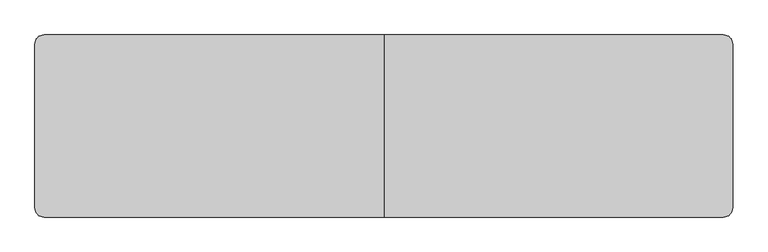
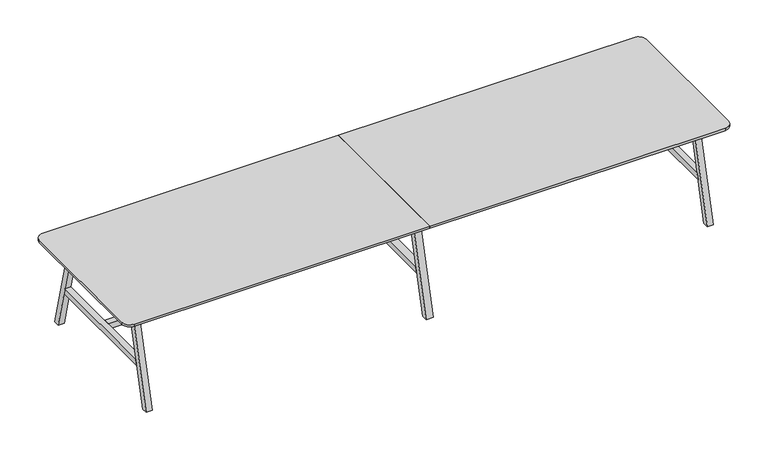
"""IFC4 building model written with IfcOpenShell, lengths in millimetres: furniture geometry, BDG_BossDesign_Tbls_AgentTables6Legs : AGE-DT-6L-4600-1200-3D."""

import ifcopenshell
import ifcopenshell.guid

model = None  # the IFC model being written
_history = None  # IfcOwnerHistory: only IFC2X3 demands one
_inside = {}  # id of a spatial element -> (the spatial element, [elements in it])
_under = {}  # id of a project, library or spatial element -> (it, [spatial elements below it])
_declared = {}  # id of a project -> (the project, [libraries it declares])
_typed = {}  # id of a type object -> (the type object, [elements of that type])
_made_of = {}  # id of a material, layer set ... -> (it, [elements and type objects made of it])


def new_model(schema):
    """Start an empty IFC model of exactly this schema.

    Asked for "IFC4X3", IfcOpenShell would pick the latest addendum, in which some entities
    have other attributes; the version numbers below select the first issue.
    IFC2X3 requires an IfcOwnerHistory on every rooted entity: one is made here for all.
    """
    global model, _history
    if schema == "IFC4X3":
        model = ifcopenshell.file(schema_version=(4, 3, 0, 0))
    else:
        model = ifcopenshell.file(schema=schema)
    _inside.clear()
    _under.clear()
    _declared.clear()
    _typed.clear()
    _made_of.clear()
    _history = None
    if model.schema == "IFC2X3":
        org = make("IfcOrganization", Name="unknown")
        user = make(
            "IfcPersonAndOrganization",
            ThePerson=make("IfcPerson", FamilyName="unknown"),
            TheOrganization=org,
        )
        app = make(
            "IfcApplication",
            ApplicationDeveloper=org,
            Version="unknown",
            ApplicationFullName="unknown",
            ApplicationIdentifier="unknown",
        )
        _history = make(
            "IfcOwnerHistory",
            OwningUser=user,
            OwningApplication=app,
            ChangeAction="ADDED",
            CreationDate=0,
        )
    return model


def make(cls, **values):
    """One entity of the class cls with the attributes given. An attribute that is None is left unset."""
    return model.create_entity(
        cls, **{name: value for name, value in values.items() if value is not None}
    )


def rooted(cls, **values):
    """An entity with a GlobalId (a new one), such as an element, a storey or a relation."""
    return make(cls, GlobalId=ifcopenshell.guid.new(), OwnerHistory=_history, **values)


def si_unit(unit_type, name, prefix=None):
    """IfcSIUnit, for example si_unit("LENGTHUNIT", "METRE", prefix="MILLI")."""
    return make("IfcSIUnit", UnitType=unit_type, Prefix=prefix, Name=name)


def assignment(units):
    """IfcUnitAssignment: the units of a project."""
    return None if units is None else make("IfcUnitAssignment", Units=units)


def point(xyz):
    """IfcCartesianPoint."""
    return None if xyz is None else make("IfcCartesianPoint", Coordinates=xyz)


def direction(xyz):
    """IfcDirection."""
    return None if xyz is None else make("IfcDirection", DirectionRatios=xyz)


def frame(location, z_axis=None, x_axis=None):
    """IfcAxis2Placement3D, a coordinate frame: its origin and axes. An axis left out is left unset."""
    return make(
        "IfcAxis2Placement3D",
        Location=point(location),
        Axis=direction(z_axis),
        RefDirection=direction(x_axis),
    )


def frame_2d(location, x_axis=None):
    """IfcAxis2Placement2D, a coordinate frame in the plane: its origin and x axis."""
    return make(
        "IfcAxis2Placement2D", Location=point(location), RefDirection=direction(x_axis)
    )


def origin():
    """The frame at (0, 0, 0) with its axes left unset."""
    return frame((0.0, 0.0, 0.0))


def place(relative_to, where):
    """IfcLocalPlacement: puts the frame where relative to a parent placement (None: the world)."""
    return make(
        "IfcLocalPlacement", PlacementRelTo=relative_to, RelativePlacement=where
    )


def context(
    kind, dimensions, precision=None, world=None, true_north=None, identifier=None
):
    """IfcGeometricRepresentationContext, for example the 3D "Model" context."""
    return make(
        "IfcGeometricRepresentationContext",
        ContextIdentifier=identifier,
        ContextType=kind,
        CoordinateSpaceDimension=dimensions,
        Precision=precision,
        WorldCoordinateSystem=world,
        TrueNorth=true_north,
    )


def project(units=None, contexts=None):
    """IfcProject with its units and contexts."""
    return rooted(
        "IfcProject",
        Name="project",
        RepresentationContexts=contexts,
        UnitsInContext=assignment(units),
    )


def spatial(cls, under=None, at=None, **own):
    """A site, building, storey or space (cls), placed at a placement, below another one or the project."""
    s = rooted(cls, ObjectPlacement=at, **own)
    if under is not None:
        _under.setdefault(under.id(), (under, []))[1].append(s)
    return s


def polyline(points):
    """IfcPolyline through the points."""
    return make("IfcPolyline", Points=[point(p) for p in points])


def circle_curve(where, radius):
    """IfcCircle in the frame where."""
    return make("IfcCircle", Position=where, Radius=radius)


def trimmed(basis, trim1, trim2, sense, master):
    """IfcTrimmedCurve: the piece of a basis curve between two trims."""
    return make(
        "IfcTrimmedCurve",
        BasisCurve=basis,
        Trim1=trim1,
        Trim2=trim2,
        SenseAgreement=sense,
        MasterRepresentation=master,
    )


def segment(curve, same_sense, transition):
    """IfcCompositeCurveSegment."""
    return make(
        "IfcCompositeCurveSegment",
        Transition=transition,
        SameSense=same_sense,
        ParentCurve=curve,
    )


def composite_curve(segments, self_intersect=None):
    """IfcCompositeCurve: segments joined end to end."""
    return make("IfcCompositeCurve", Segments=segments, SelfIntersect=self_intersect)


def outline(outer, holes=None, kind="AREA"):
    """IfcArbitraryClosedProfileDef: a profile drawn as a closed curve; with holes, ...WithVoids."""
    if holes is None:
        return make("IfcArbitraryClosedProfileDef", ProfileType=kind, OuterCurve=outer)
    return make(
        "IfcArbitraryProfileDefWithVoids",
        ProfileType=kind,
        OuterCurve=outer,
        InnerCurves=holes,
    )


def extrude(swept, where, along, depth):
    """IfcExtrudedAreaSolid: the profile swept, set in the frame where, extruded along a direction by depth."""
    return make(
        "IfcExtrudedAreaSolid",
        SweptArea=swept,
        Position=where,
        ExtrudedDirection=direction(along),
        Depth=depth,
    )


def shape(context_of_items, identifier, shape_type, items):
    """IfcShapeRepresentation: the items that make up one representation, for example the "Body"."""
    return make(
        "IfcShapeRepresentation",
        ContextOfItems=context_of_items,
        RepresentationIdentifier=identifier,
        RepresentationType=shape_type,
        Items=items,
    )


def source(mapping_origin, context_of_items, identifier, shape_type, items):
    """IfcRepresentationMap: a shape defined once, which mapped items show again and again."""
    return make(
        "IfcRepresentationMap",
        MappingOrigin=mapping_origin,
        MappedRepresentation=shape(context_of_items, identifier, shape_type, items),
    )


def transform(
    local_origin,
    x_axis=None,
    y_axis=None,
    z_axis=None,
    scale=None,
    scale2=None,
    scale3=None,
    uniform=True,
):
    """IfcCartesianTransformationOperator3D, or its non-uniform kind. x_axis, y_axis, z_axis: its Axis1, 2, 3."""
    if uniform:
        return make(
            "IfcCartesianTransformationOperator3D",
            Axis1=direction(x_axis),
            Axis2=direction(y_axis),
            LocalOrigin=point(local_origin),
            Scale=scale,
            Axis3=direction(z_axis),
        )
    return make(
        "IfcCartesianTransformationOperator3DnonUniform",
        Axis1=direction(x_axis),
        Axis2=direction(y_axis),
        LocalOrigin=point(local_origin),
        Scale=scale,
        Axis3=direction(z_axis),
        Scale2=scale2,
        Scale3=scale3,
    )


def mapped(mapping_source, mapping_target):
    """IfcMappedItem: shows the shape of a source again, moved by a transform."""
    return make(
        "IfcMappedItem", MappingSource=mapping_source, MappingTarget=mapping_target
    )


def made_of(thing, what):
    """Note that an element or type object is made of a material, layer set ...; save() writes the relation."""
    if what is not None:
        _made_of.setdefault(what.id(), (what, []))[1].append(thing)
    return thing


def element(
    cls,
    number,
    at=None,
    inside=None,
    cuts=None,
    type_object=None,
    material=None,
    context=None,
    identifier="Body",
    shape_type=None,
    held_by="IfcProductDefinitionShape",
    body=None,
    shapes=None,
    **own,
):
    """One element of the class cls, such as IfcWall. Its Tag is "e" and its number.

    at: its placement. inside: the storey or other place that contains it. cuts: it is an
    opening in that element (IfcRelVoidsElement). A single representation is given by context,
    identifier, shape_type and body (its items); several are given by shapes. held_by: the class
    of the entity that holds the representations. save() writes the other relations.
    """
    e = rooted(cls, Tag="e%d" % number, ObjectPlacement=at, **own)
    if body is not None:
        shapes = [shape(context, identifier, shape_type, body)]
    if shapes is not None:
        e.Representation = make(held_by, Representations=shapes)
    if inside is not None:
        _inside.setdefault(inside.id(), (inside, []))[1].append(e)
    if cuts is not None:
        rooted(
            "IfcRelVoidsElement", RelatingBuildingElement=cuts, RelatedOpeningElement=e
        )
    if type_object is not None:
        _typed.setdefault(type_object.id(), (type_object, []))[1].append(e)
    return made_of(e, material)


def aggregate(whole, parts):
    """IfcRelAggregates: a whole, such as a stair, and the parts it consists of."""
    return rooted("IfcRelAggregates", RelatingObject=whole, RelatedObjects=parts)


def save(model, path):
    """Write the relations noted so far, then the file.

    IfcRelAggregates (storeys below a building ...), IfcRelContainedInSpatialStructure (elements
    in a storey), IfcRelDefinesByType, IfcRelAssociatesMaterial and IfcRelDeclares: one each for
    every whole, place, type object, material and project.
    """
    for whole, parts in _under.values():
        aggregate(whole, parts)
    for where, things in _inside.values():
        rooted(
            "IfcRelContainedInSpatialStructure",
            RelatedElements=things,
            RelatingStructure=where,
        )
    for kind, things in _typed.values():
        rooted("IfcRelDefinesByType", RelatedObjects=things, RelatingType=kind)
    for what, things in _made_of.values():
        rooted("IfcRelAssociatesMaterial", RelatedObjects=things, RelatingMaterial=what)
    for by, libraries in _declared.values():
        rooted("IfcRelDeclares", RelatingContext=by, RelatedDefinitions=libraries)
    model.write(path)


def furniture_21c54065(model_context):
    return source(origin(), model_context, "Body", "SweptSolid", [
        extrude(outline(polyline([(600.0, 0.0), (554.9999949, 0.0), (385.5, 660.0), (430.5000051, 660.0), (600.0, 0.0)])), frame((-27.5, 0.0, 0.0), z_axis=(1.0, 0.0, 0.0), x_axis=(0.0, 1.0, 0.0)), (0.0, 0.0, 1.0), 55.0),
        extrude(outline(polyline([(-600.0, 0.0), (-430.5000051, 660.0), (-385.5, 660.0), (-554.9999949, 0.0), (-600.0, 0.0)])), frame((-27.5, 0.0, 0.0), z_axis=(1.0, 0.0, 0.0), x_axis=(0.0, 1.0, 0.0)), (0.0, 0.0, 1.0), 55.0),
        extrude(outline(polyline([(477.9545427, 300.0), (-477.9545427, 300.0), (-466.3977249, 345.0), (466.3977249, 345.0), (477.9545427, 300.0)])), frame((-27.5, 0.0, 0.0), z_axis=(1.0, 0.0, 0.0), x_axis=(0.0, 1.0, 0.0)), (0.0, 0.0, 1.0), 55.0),
        extrude(outline(composite_curve([segment(polyline([(0.0, 600.0), (0.0, -600.0), (-2240.0, -600.0)]), True, "CONTINUOUS"), segment(trimmed(circle_curve(frame_2d((-2240.0, -540.0)), 60.0), [point((-2240.0, -600.0))], [point((-2300.0, -540.0))], False, "CARTESIAN"), True, "CONTINUOUS"), segment(polyline([(-2300.0, -540.0), (-2300.0, 540.0)]), True, "CONTINUOUS"), segment(trimmed(circle_curve(frame_2d((-2240.0, 540.0)), 60.0), [point((-2300.0, 540.0))], [point((-2240.0, 600.0))], False, "CARTESIAN"), True, "CONTINUOUS"), segment(polyline([(-2240.0, 600.0), (0.0, 600.0)]), True, "CONTINUOUS")], self_intersect=False)), frame((0.0, 0.0, 722.0), z_axis=(0.0, 0.0, 1.0), x_axis=(1.0, 0.0, 0.0)), (0.0, 0.0, 1.0), 18.0),
        extrude(outline(polyline([(-466.3977249, 345.0), (466.3977249, 345.0), (477.9545427, 300.0), (-477.9545427, 300.0), (-466.3977249, 345.0)])), frame((2105.0, 0.0, 0.0), z_axis=(1.0, 0.0, 0.0), x_axis=(0.0, 1.0, 0.0)), (0.0, 0.0, 1.0), 45.0),
        extrude(outline(polyline([(600.0, 0.0), (554.9999949, 0.0), (385.5, 660.0), (430.5000051, 660.0), (600.0, 0.0)])), frame((-2150.0, 0.0, 0.0), z_axis=(1.0, 0.0, 0.0), x_axis=(0.0, 1.0, 0.0)), (0.0, 0.0, 1.0), 45.0),
        extrude(outline(polyline([(-600.0, 0.0), (-430.5000051, 660.0), (-385.5, 660.0), (-554.9999949, 0.0), (-600.0, 0.0)])), frame((-2150.0, 0.0, 0.0), z_axis=(1.0, 0.0, 0.0), x_axis=(0.0, 1.0, 0.0)), (0.0, 0.0, 1.0), 45.0),
        extrude(outline(polyline([(-466.3977249, 345.0), (466.3977249, 345.0), (477.9545427, 300.0), (-477.9545427, 300.0), (-466.3977249, 345.0)])), frame((-2150.0, 0.0, 0.0), z_axis=(1.0, 0.0, 0.0), x_axis=(0.0, 1.0, 0.0)), (0.0, 0.0, 1.0), 45.0),
        extrude(outline(polyline([(-426.6006165, 634.973938), (-404.2770691, 722.0), (-379.5, 722.0), (-401.8235474, 634.973938), (-426.6006165, 634.973938)])), frame((-2105.0, 0.0, 0.0), z_axis=(1.0, 0.0, 0.0), x_axis=(0.0, 1.0, 0.0)), (0.0, 0.0, 1.0), 4210.0),
        extrude(outline(polyline([(426.6006165, 634.973938), (401.8235474, 634.973938), (379.5, 722.0), (404.2770691, 722.0), (426.6006165, 634.973938)])), frame((-2105.0, 0.0, 0.0), z_axis=(1.0, 0.0, 0.0), x_axis=(0.0, 1.0, 0.0)), (0.0, 0.0, 1.0), 4210.0),
        extrude(outline(polyline([(599.7999878, 0.0), (554.7999827, 0.0), (385.5, 660.0), (430.5000051, 660.0), (599.7999878, 0.0)])), frame((2105.0, 0.0, 0.0), z_axis=(1.0, 0.0, 0.0), x_axis=(0.0, 1.0, 0.0)), (0.0, 0.0, 1.0), 45.0),
        extrude(outline(polyline([(-599.7999878, 0.0), (-430.5000051, 660.0), (-385.5, 660.0), (-554.7999827, 0.0), (-599.7999878, 0.0)])), frame((2105.0, 0.0, 0.0), z_axis=(1.0, 0.0, 0.0), x_axis=(0.0, 1.0, 0.0)), (0.0, 0.0, 1.0), 45.0),
        extrude(outline(polyline([(-27.5, 22.5000305), (-27.5, -22.5000305), (-2105.0, -22.5000305), (-2105.0, 22.5000305), (-27.5, 22.5000305)])), frame((0.0, 0.0, 300.0), z_axis=(0.0, 0.0, 1.0), x_axis=(1.0, 0.0, 0.0)), (0.0, 0.0, 1.0), 45.0),
        extrude(outline(polyline([(27.5, -22.5000305), (27.5, 22.5000305), (2105.0, 22.5000305), (2105.0, -22.5000305), (27.5, -22.5000305)])), frame((0.0, 0.0, 300.0), z_axis=(0.0, 0.0, 1.0), x_axis=(1.0, 0.0, 0.0)), (0.0, 0.0, 1.0), 45.0),
        extrude(outline(composite_curve([segment(trimmed(circle_curve(frame_2d((2240.0, 540.0)), 60.0), [point((2240.0, 600.0))], [point((2300.0, 540.0))], False, "CARTESIAN"), True, "CONTINUOUS"), segment(polyline([(2300.0, 540.0), (2300.0, -540.0)]), True, "CONTINUOUS"), segment(trimmed(circle_curve(frame_2d((2240.0, -540.0)), 60.0), [point((2300.0, -540.0))], [point((2240.0, -600.0))], False, "CARTESIAN"), True, "CONTINUOUS"), segment(polyline([(2240.0, -600.0), (0.0, -600.0), (0.0, 600.0), (2240.0, 600.0)]), True, "CONTINUOUS")], self_intersect=False)), frame((0.0, 0.0, 722.0), z_axis=(0.0, 0.0, 1.0), x_axis=(1.0, 0.0, 0.0)), (0.0, 0.0, 1.0), 18.0),
    ])


if __name__ == "__main__":
    model = new_model("IFC4")
    model_context = context("Model", 3, world=origin())
    ifc_project = project(units=[si_unit("LENGTHUNIT", "METRE", prefix="MILLI")], contexts=[model_context])
    site = spatial("IfcSite", under=ifc_project)
    building = spatial("IfcBuilding", under=site)
    placement = place(None, origin())
    furniture_shape = furniture_21c54065(model_context)
    element("IfcFurniture", 1, ObjectType="BDG_BossDesign_Tbls_AgentTables6Legs : AGE-DT-6L-4600-1200-3D", at=placement, inside=building, context=model_context, shape_type="MappedRepresentation", body=[
        mapped(furniture_shape, transform((0.0, 0.0, 0.0), x_axis=(1.0, 0.0, 0.0), y_axis=(0.0, 1.0, 0.0), z_axis=(0.0, 0.0, 1.0))),
    ])
    save(model, "model.ifc")
